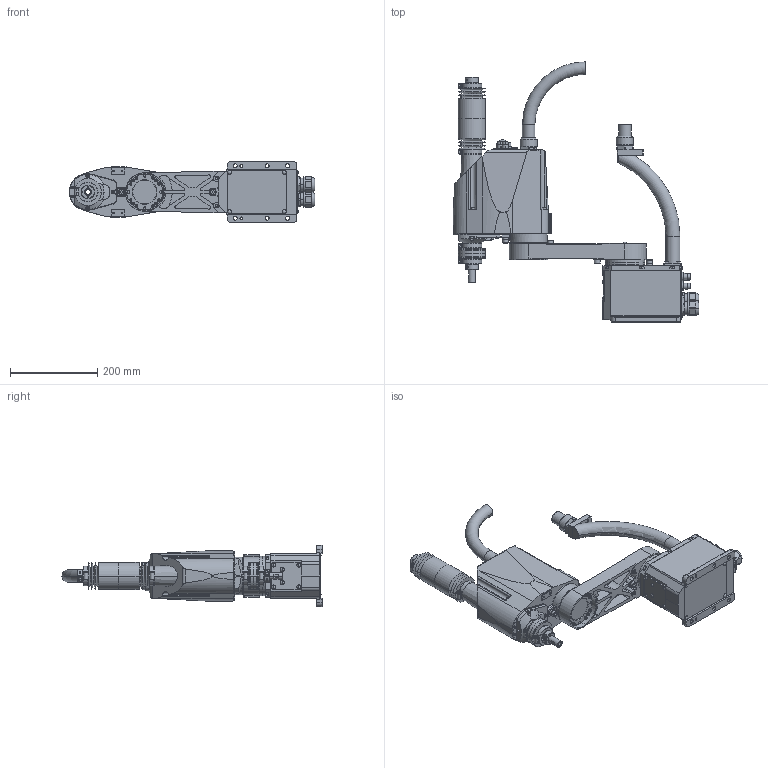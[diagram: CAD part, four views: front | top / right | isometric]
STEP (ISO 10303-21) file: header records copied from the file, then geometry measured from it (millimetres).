
FILE_DESCRIPTION( ( '' ), '1' );
FILE_NAME( '//expscmdclustefs.cadenas.external/client_exchange/iodir/jobs/output/wkb51512720_no0/STEP/G3_351C_2_03.stp', '2012-11-22T15:41:59', ( '' ), ( '' ), ' ', ' ', ' ' );
FILE_SCHEMA( ( 'CONFIG_CONTROL_DESIGN' ) );
Length unit declared in the file: millimetre
Products named in the file (8): 1; 2; 3; 4; 5; 6; 7; 8
Bounding box: 561.5 x 595 x 140 mm (x, y, z)
Volume: 8098012.7 mm3; surface area: 682782 mm2
Topology: 8 solids, 8 shells, 2052 faces, 4969 edges, 3168 vertices
Faces by surface type: plane 961, cylinder 713, cone 243, torus 97, sphere 38
Entity records: 62906 total; most frequent: CARTESIAN_POINT 13185, DIRECTION 10843, ORIENTED_EDGE 9862, EDGE_CURVE 4931, AXIS2_PLACEMENT_3D 4058, VERTEX_POINT 3168, LINE 2727, VECTOR 2727
